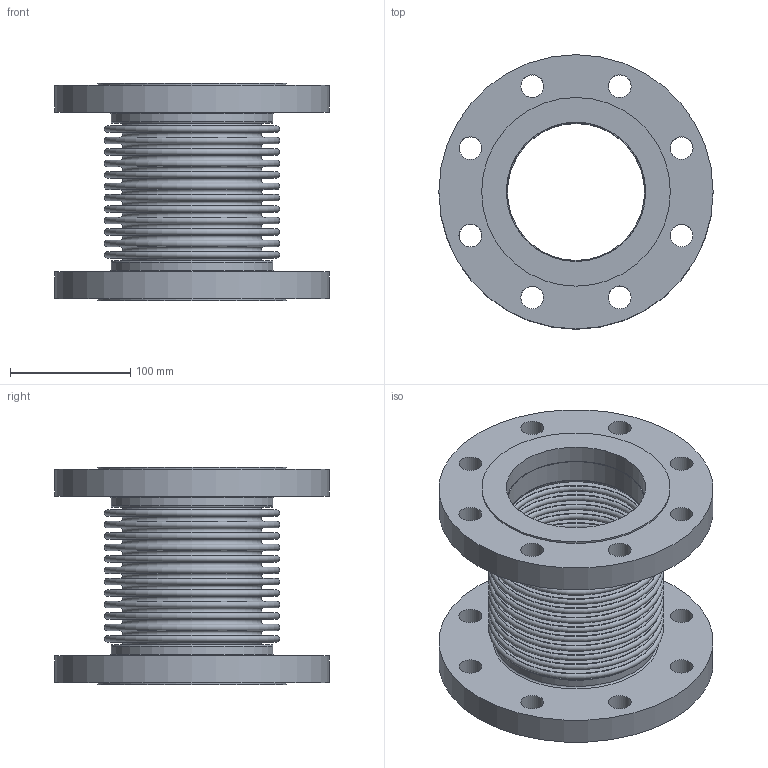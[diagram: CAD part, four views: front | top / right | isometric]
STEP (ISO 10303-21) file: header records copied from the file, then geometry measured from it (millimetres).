
FILE_DESCRIPTION(/* description */ ('EXPANSION JOINT,SINGLE, FLANGED ENDS,4 INCH NOMINAL','CAx-IF Rec.Pracs.---Representation and Presentation of Product Manufacturing Information (PMI)---4.0---2014-10-13'),/* implementation_level */ '2;1');
FILE_NAME(/* name */ 'US-04-12-85L-FLANGED ENDS.stp',/* time_stamp */ '2026-07-31T16:56:46-05:00',/* author */ ('Guadalupe'),/* organization */ (''),/* preprocessor_version */ 'ST-DEVELOPER v20.1',/* originating_system */ 'Autodesk Inventor 2026',/* authorisation */ '');
FILE_SCHEMA (('AP242_MANAGED_MODEL_BASED_3D_ENGINEERING_MIM_LF { 1 0 10303 442 2 1 4 }'));
Length unit declared in the file: inch
Products named in the file (3): 04-85L; 04-85L-02; 04-85L-01
Assembly tree (3 placements, depth 2):
  04-85L
    04-85L-02  x2
    04-85L-01
Bounding box: 228.6 x 228.6 x 180.85 mm (x, y, z)
Volume: 1472328.4 mm3; surface area: 580709.4 mm2
Topology: 5 solids, 5 shells, 144 faces, 246 edges, 164 vertices
Faces by surface type: plane 62, torus 54, cylinder 28
Full cylindrical faces by diameter (mm): 19.05 x16, 114.3 x2, 115.519 x2, 116.078 x2, 134.874 x2, 157.226 x2, 228.6 x2
Entity records: 3294 total; most frequent: DIRECTION 682, CARTESIAN_POINT 489, ORIENTED_EDGE 408, AXIS2_PLACEMENT_3D 333, EDGE_CURVE 204, EDGE_LOOP 200, CIRCLE 188, VERTEX_POINT 136
